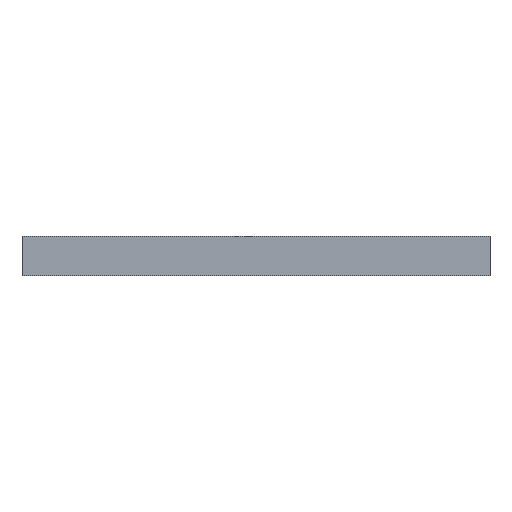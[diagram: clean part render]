
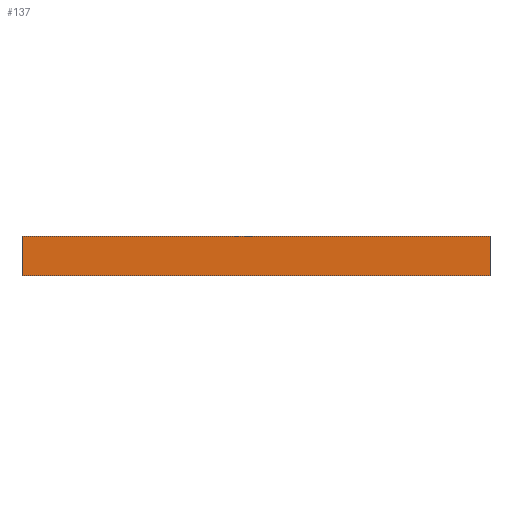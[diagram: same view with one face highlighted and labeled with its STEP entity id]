
A CAD part, front view. The second image highlights one B-rep face of the part: STEP entity #137.
In plain terms, the highlighted planar face has unit normal (0, -1, 0).
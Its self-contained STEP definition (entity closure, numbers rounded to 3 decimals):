
#24 = VERTEX_POINT('',#25);
#25 = CARTESIAN_POINT('',(-15.,-20.,-1.25));
#32 = PLANE('',#33);
#33 = AXIS2_PLACEMENT_3D('',#34,#35,#36);
#34 = CARTESIAN_POINT('',(-15.,0.,0.));
#35 = DIRECTION('',(1.,0.,0.));
#36 = DIRECTION('',(0.,0.,1.));
#44 = PLANE('',#45);
#45 = AXIS2_PLACEMENT_3D('',#46,#47,#48);
#46 = CARTESIAN_POINT('',(0.,0.,-1.25));
#47 = DIRECTION('',(0.,0.,1.));
#48 = DIRECTION('',(0.,1.,0.));
#56 = EDGE_CURVE('',#24,#57,#59,.T.);
#57 = VERTEX_POINT('',#58);
#58 = CARTESIAN_POINT('',(-15.,-20.,1.25));
#59 = SURFACE_CURVE('',#60,(#64,#71),.PCURVE_S1.);
#60 = LINE('',#61,#62);
#61 = CARTESIAN_POINT('',(-15.,-20.,-1.25));
#62 = VECTOR('',#63,1.);
#63 = DIRECTION('',(0.,0.,1.));
#64 = PCURVE('',#32,#65);
#65 = DEFINITIONAL_REPRESENTATION('',(#66),#70);
#66 = LINE('',#67,#68);
#67 = CARTESIAN_POINT('',(-1.25,20.));
#68 = VECTOR('',#69,1.);
#69 = DIRECTION('',(1.,0.));
#70 = ( GEOMETRIC_REPRESENTATION_CONTEXT(2) 
PARAMETRIC_REPRESENTATION_CONTEXT() REPRESENTATION_CONTEXT('2D SPACE',''
  ) );
#71 = PCURVE('',#72,#77);
#72 = PLANE('',#73);
#73 = AXIS2_PLACEMENT_3D('',#74,#75,#76);
#74 = CARTESIAN_POINT('',(0.,-20.,0.));
#75 = DIRECTION('',(-0.,-1.,-0.));
#76 = DIRECTION('',(0.,0.,1.));
#77 = DEFINITIONAL_REPRESENTATION('',(#78),#82);
#78 = LINE('',#79,#80);
#79 = CARTESIAN_POINT('',(-1.25,15.));
#80 = VECTOR('',#81,1.);
#81 = DIRECTION('',(1.,0.));
#82 = ( GEOMETRIC_REPRESENTATION_CONTEXT(2) 
PARAMETRIC_REPRESENTATION_CONTEXT() REPRESENTATION_CONTEXT('2D SPACE',''
  ) );
#100 = PLANE('',#101);
#101 = AXIS2_PLACEMENT_3D('',#102,#103,#104);
#102 = CARTESIAN_POINT('',(0.,0.,1.25));
#103 = DIRECTION('',(0.,0.,1.));
#104 = DIRECTION('',(0.,1.,0.));
#137 = ADVANCED_FACE('',(#138),#72,.T.);
#138 = FACE_BOUND('',#139,.T.);
#139 = EDGE_LOOP('',(#140,#163,#191,#212));
#140 = ORIENTED_EDGE('',*,*,#141,.T.);
#141 = EDGE_CURVE('',#24,#142,#144,.T.);
#142 = VERTEX_POINT('',#143);
#143 = CARTESIAN_POINT('',(15.,-20.,-1.25));
#144 = SURFACE_CURVE('',#145,(#149,#156),.PCURVE_S1.);
#145 = LINE('',#146,#147);
#146 = CARTESIAN_POINT('',(-15.,-20.,-1.25));
#147 = VECTOR('',#148,1.);
#148 = DIRECTION('',(1.,0.,0.));
#149 = PCURVE('',#72,#150);
#150 = DEFINITIONAL_REPRESENTATION('',(#151),#155);
#151 = LINE('',#152,#153);
#152 = CARTESIAN_POINT('',(-1.25,15.));
#153 = VECTOR('',#154,1.);
#154 = DIRECTION('',(0.,-1.));
#155 = ( GEOMETRIC_REPRESENTATION_CONTEXT(2) 
PARAMETRIC_REPRESENTATION_CONTEXT() REPRESENTATION_CONTEXT('2D SPACE',''
  ) );
#156 = PCURVE('',#44,#157);
#157 = DEFINITIONAL_REPRESENTATION('',(#158),#162);
#158 = LINE('',#159,#160);
#159 = CARTESIAN_POINT('',(-20.,15.));
#160 = VECTOR('',#161,1.);
#161 = DIRECTION('',(0.,-1.));
#162 = ( GEOMETRIC_REPRESENTATION_CONTEXT(2) 
PARAMETRIC_REPRESENTATION_CONTEXT() REPRESENTATION_CONTEXT('2D SPACE',''
  ) );
#163 = ORIENTED_EDGE('',*,*,#164,.T.);
#164 = EDGE_CURVE('',#142,#165,#167,.T.);
#165 = VERTEX_POINT('',#166);
#166 = CARTESIAN_POINT('',(15.,-20.,1.25));
#167 = SURFACE_CURVE('',#168,(#172,#179),.PCURVE_S1.);
#168 = LINE('',#169,#170);
#169 = CARTESIAN_POINT('',(15.,-20.,-1.25));
#170 = VECTOR('',#171,1.);
#171 = DIRECTION('',(0.,0.,1.));
#172 = PCURVE('',#72,#173);
#173 = DEFINITIONAL_REPRESENTATION('',(#174),#178);
#174 = LINE('',#175,#176);
#175 = CARTESIAN_POINT('',(-1.25,-15.));
#176 = VECTOR('',#177,1.);
#177 = DIRECTION('',(1.,0.));
#178 = ( GEOMETRIC_REPRESENTATION_CONTEXT(2) 
PARAMETRIC_REPRESENTATION_CONTEXT() REPRESENTATION_CONTEXT('2D SPACE',''
  ) );
#179 = PCURVE('',#180,#185);
#180 = PLANE('',#181);
#181 = AXIS2_PLACEMENT_3D('',#182,#183,#184);
#182 = CARTESIAN_POINT('',(15.,0.,0.));
#183 = DIRECTION('',(1.,0.,0.));
#184 = DIRECTION('',(0.,0.,1.));
#185 = DEFINITIONAL_REPRESENTATION('',(#186),#190);
#186 = LINE('',#187,#188);
#187 = CARTESIAN_POINT('',(-1.25,20.));
#188 = VECTOR('',#189,1.);
#189 = DIRECTION('',(1.,0.));
#190 = ( GEOMETRIC_REPRESENTATION_CONTEXT(2) 
PARAMETRIC_REPRESENTATION_CONTEXT() REPRESENTATION_CONTEXT('2D SPACE',''
  ) );
#191 = ORIENTED_EDGE('',*,*,#192,.T.);
#192 = EDGE_CURVE('',#165,#57,#193,.T.);
#193 = SURFACE_CURVE('',#194,(#198,#205),.PCURVE_S1.);
#194 = LINE('',#195,#196);
#195 = CARTESIAN_POINT('',(15.,-20.,1.25));
#196 = VECTOR('',#197,1.);
#197 = DIRECTION('',(-1.,0.,0.));
#198 = PCURVE('',#72,#199);
#199 = DEFINITIONAL_REPRESENTATION('',(#200),#204);
#200 = LINE('',#201,#202);
#201 = CARTESIAN_POINT('',(1.25,-15.));
#202 = VECTOR('',#203,1.);
#203 = DIRECTION('',(0.,1.));
#204 = ( GEOMETRIC_REPRESENTATION_CONTEXT(2) 
PARAMETRIC_REPRESENTATION_CONTEXT() REPRESENTATION_CONTEXT('2D SPACE',''
  ) );
#205 = PCURVE('',#100,#206);
#206 = DEFINITIONAL_REPRESENTATION('',(#207),#211);
#207 = LINE('',#208,#209);
#208 = CARTESIAN_POINT('',(-20.,-15.));
#209 = VECTOR('',#210,1.);
#210 = DIRECTION('',(0.,1.));
#211 = ( GEOMETRIC_REPRESENTATION_CONTEXT(2) 
PARAMETRIC_REPRESENTATION_CONTEXT() REPRESENTATION_CONTEXT('2D SPACE',''
  ) );
#212 = ORIENTED_EDGE('',*,*,#56,.F.);
